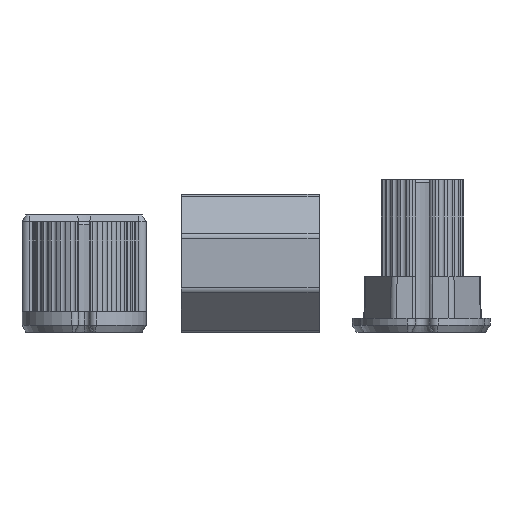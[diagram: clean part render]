
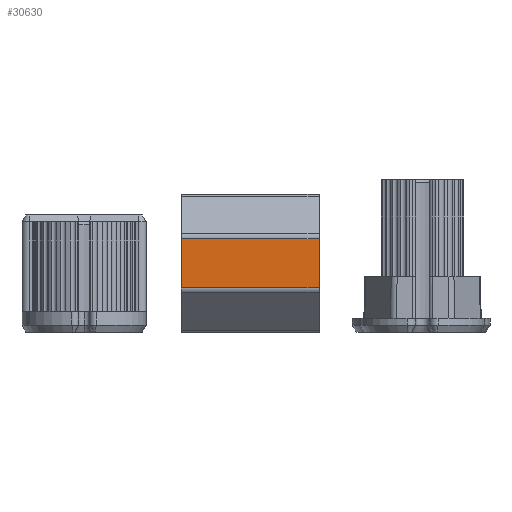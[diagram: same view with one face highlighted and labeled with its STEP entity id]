
A CAD part, front view. The second image highlights one B-rep face of the part: STEP entity #30630.
In plain terms, the highlighted planar face has unit normal (0, -1, 0).
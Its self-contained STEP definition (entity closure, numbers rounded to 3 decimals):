
#419 = AXIS2_PLACEMENT_3D ( 'NONE', #15196, #17920, #18298 ) ;
#933 = VECTOR ( 'NONE', #36061, 1000. ) ;
#1435 = ORIENTED_EDGE ( 'NONE', *, *, #15548, .T. ) ;
#2248 = LINE ( 'NONE', #35246, #19496 ) ;
#3079 = CARTESIAN_POINT ( 'NONE',  ( 24.142, -28., 6.414 ) ) ;
#3776 = EDGE_CURVE ( 'NONE', #7750, #29527, #2248, .T. ) ;
#6224 = FACE_OUTER_BOUND ( 'NONE', #15938, .T. ) ;
#6754 = ORIENTED_EDGE ( 'NONE', *, *, #37787, .T. ) ;
#7750 = VERTEX_POINT ( 'NONE', #22729 ) ;
#8533 = DIRECTION ( 'NONE',  ( -1., 0., 0. ) ) ;
#8763 = DIRECTION ( 'NONE',  ( 0., 0., -1. ) ) ;
#8772 = CARTESIAN_POINT ( 'NONE',  ( -10., -28., 13.586 ) ) ;
#12266 = CARTESIAN_POINT ( 'NONE',  ( 10., -28., 0. ) ) ;
#15196 = CARTESIAN_POINT ( 'NONE',  ( 24.142, -28., 0. ) ) ;
#15548 = EDGE_CURVE ( 'NONE', #32927, #29527, #31921, .T. ) ;
#15938 = EDGE_LOOP ( 'NONE', ( #33070, #1435, #24930, #6754 ) ) ;
#16935 = CARTESIAN_POINT ( 'NONE',  ( 24.142, -28., 13.586 ) ) ;
#17476 = VECTOR ( 'NONE', #8533, 1000. ) ;
#17920 = DIRECTION ( 'NONE',  ( 0., -1., 0. ) ) ;
#18298 = DIRECTION ( 'NONE',  ( 0., 0., -1. ) ) ;
#19496 = VECTOR ( 'NONE', #23997, 1000. ) ;
#22557 = EDGE_CURVE ( 'NONE', #32927, #38606, #25438, .T. ) ;
#22729 = CARTESIAN_POINT ( 'NONE',  ( -10., -28., 6.414 ) ) ;
#23015 = VECTOR ( 'NONE', #8763, 1000. ) ;
#23997 = DIRECTION ( 'NONE',  ( 0., 0., 1. ) ) ;
#24930 = ORIENTED_EDGE ( 'NONE', *, *, #3776, .F. ) ;
#25438 = LINE ( 'NONE', #12266, #23015 ) ;
#29527 = VERTEX_POINT ( 'NONE', #8772 ) ;
#29960 = PLANE ( 'NONE',  #419 ) ;
#29976 = LINE ( 'NONE', #3079, #933 ) ;
#30630 = ADVANCED_FACE ( 'NONE', ( #6224 ), #29960, .T. ) ;
#31921 = LINE ( 'NONE', #16935, #17476 ) ;
#32927 = VERTEX_POINT ( 'NONE', #38180 ) ;
#33070 = ORIENTED_EDGE ( 'NONE', *, *, #22557, .F. ) ;
#33487 = CARTESIAN_POINT ( 'NONE',  ( 10., -28., 6.414 ) ) ;
#35246 = CARTESIAN_POINT ( 'NONE',  ( -10., -28., 0. ) ) ;
#36061 = DIRECTION ( 'NONE',  ( 1., 0., 0. ) ) ;
#37787 = EDGE_CURVE ( 'NONE', #7750, #38606, #29976, .T. ) ;
#38180 = CARTESIAN_POINT ( 'NONE',  ( 10., -28., 13.586 ) ) ;
#38606 = VERTEX_POINT ( 'NONE', #33487 ) ;
